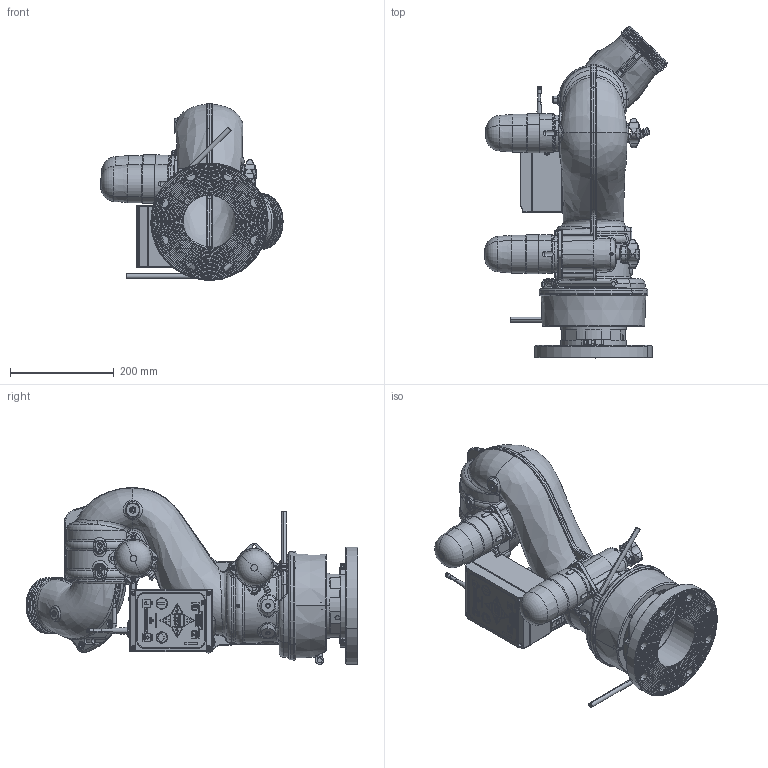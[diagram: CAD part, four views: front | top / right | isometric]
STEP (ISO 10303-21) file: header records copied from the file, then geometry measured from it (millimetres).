
FILE_DESCRIPTION (( 'STEP AP203' ), '1' );
FILE_NAME ('Y5-E21A_45_Up.STEP', '2014-07-03T17:01:33', ( '' ), ( '' ), 'SwSTEP 2.0', 'SolidWorks 2014', '' );
FILE_SCHEMA (( 'CONFIG_CONTROL_DESIGN' ));
Length unit declared in the file: inch
Products named in the file (1): Y5-E21A_45_Up
Bounding box: 351.36 x 638.85 x 340.61 mm (x, y, z)
Surface area: 1033803.4 mm2 (no closed solid volume)
Topology: 0 solids, 227 shells, 2460 faces, 10862 edges, 8467 vertices
Faces by surface type: plane 654, cylinder 496, torus 494, bspline 434, cone 342, sphere 40
Entity records: 210259 total; most frequent: CARTESIAN_POINT 130194, ORIENTED_EDGE 15542, DIRECTION 14445, EDGE_CURVE 10844, VERTEX_POINT 8459, AXIS2_PLACEMENT_3D 4984, LINE 4477, VECTOR 4477
